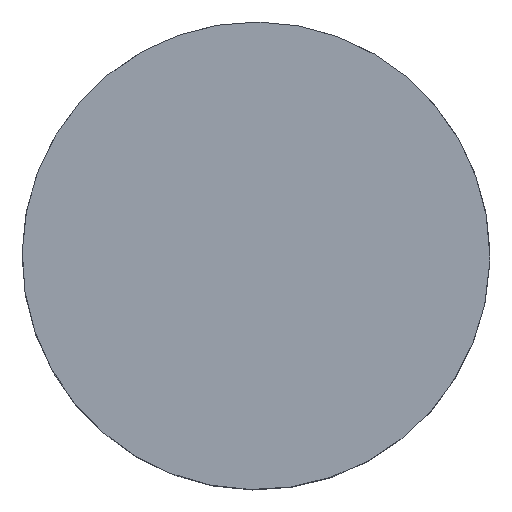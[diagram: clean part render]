
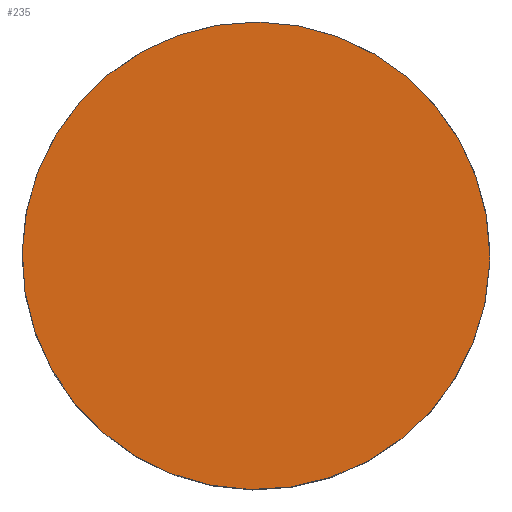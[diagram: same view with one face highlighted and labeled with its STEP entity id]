
A CAD part, top view. The second image highlights one B-rep face of the part: STEP entity #235.
In plain terms, the highlighted planar face has unit normal (0, 0, 1).
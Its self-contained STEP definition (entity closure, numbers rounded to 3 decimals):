
#41=PLANE('',#283);
#61=FACE_OUTER_BOUND('',#88,.T.);
#88=EDGE_LOOP('',(#197));
#107=CIRCLE('',#252,29.5);
#127=VERTEX_POINT('',#383);
#149=EDGE_CURVE('',#127,#127,#107,.T.);
#197=ORIENTED_EDGE('',*,*,#149,.T.);
#235=ADVANCED_FACE('',(#61),#41,.T.);
#252=AXIS2_PLACEMENT_3D('',#384,#303,#304);
#283=AXIS2_PLACEMENT_3D('',#430,#365,#366);
#303=DIRECTION('center_axis',(0.,0.,1.));
#304=DIRECTION('ref_axis',(-1.,0.,0.));
#365=DIRECTION('center_axis',(0.,0.,1.));
#366=DIRECTION('ref_axis',(1.,0.,0.));
#383=CARTESIAN_POINT('',(29.5,0.,31.));
#384=CARTESIAN_POINT('Origin',(0.,0.,31.));
#430=CARTESIAN_POINT('Origin',(0.,0.,
31.));
